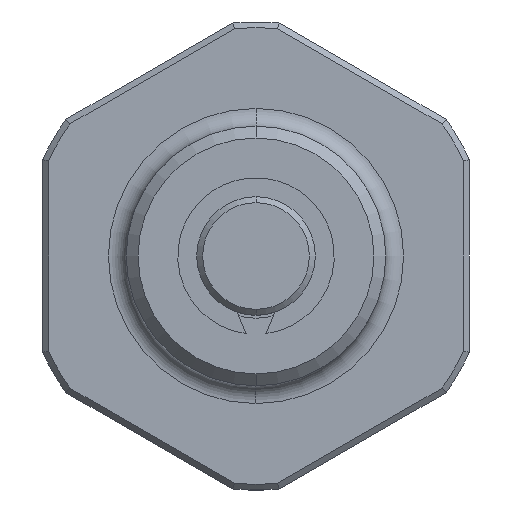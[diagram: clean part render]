
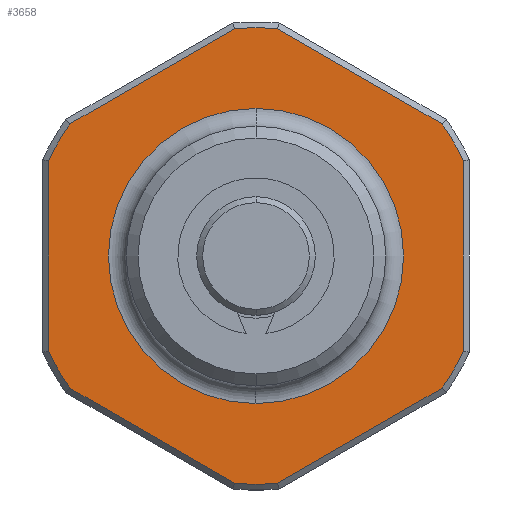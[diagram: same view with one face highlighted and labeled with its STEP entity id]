
A CAD part, front view. The second image highlights one B-rep face of the part: STEP entity #3658.
In plain terms, the highlighted planar face has unit normal (0, -1, 0).
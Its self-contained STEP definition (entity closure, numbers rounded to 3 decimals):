
#689=CARTESIAN_POINT('',(0.,-39.,0.));
#690=DIRECTION('',(0.,1.,0.));
#691=DIRECTION('',(-0.909,0.,0.417));
#692=AXIS2_PLACEMENT_3D('',#689,#690,#691);
#694=DIRECTION('',(-0.866,0.,-0.5));
#695=VECTOR('',#694,16.039);
#696=CARTESIAN_POINT('',(-1.805,-39.,19.165));
#697=LINE('',#696,#695);
#698=CARTESIAN_POINT('',(0.,-39.,0.));
#699=DIRECTION('',(0.,1.,0.));
#700=DIRECTION('',(-0.094,0.,0.996));
#701=AXIS2_PLACEMENT_3D('',#698,#699,#700);
#703=DIRECTION('',(-0.866,0.,0.5));
#704=VECTOR('',#703,16.039);
#705=CARTESIAN_POINT('',(15.695,-39.,11.146));
#706=LINE('',#705,#704);
#707=CARTESIAN_POINT('',(0.,-39.,0.));
#708=DIRECTION('',(0.,1.,0.));
#709=DIRECTION('',(0.815,0.,0.579));
#710=AXIS2_PLACEMENT_3D('',#707,#708,#709);
#712=DIRECTION('',(0.,0.,1.));
#713=VECTOR('',#712,16.039);
#714=CARTESIAN_POINT('',(17.5,-39.,-8.02));
#715=LINE('',#714,#713);
#716=CARTESIAN_POINT('',(0.,-39.,0.));
#717=DIRECTION('',(0.,1.,0.));
#718=DIRECTION('',(0.909,0.,-0.417));
#719=AXIS2_PLACEMENT_3D('',#716,#717,#718);
#721=DIRECTION('',(0.866,0.,0.5));
#722=VECTOR('',#721,16.039);
#723=CARTESIAN_POINT('',(1.805,-39.,-19.165));
#724=LINE('',#723,#722);
#725=CARTESIAN_POINT('',(0.,-39.,0.));
#726=DIRECTION('',(0.,1.,0.));
#727=DIRECTION('',(0.094,0.,-0.996));
#728=AXIS2_PLACEMENT_3D('',#725,#726,#727);
#730=DIRECTION('',(0.866,0.,-0.5));
#731=VECTOR('',#730,16.039);
#732=CARTESIAN_POINT('',(-15.695,-39.,-11.146));
#733=LINE('',#732,#731);
#734=CARTESIAN_POINT('',(0.,-39.,0.));
#735=DIRECTION('',(0.,1.,0.));
#736=DIRECTION('',(-0.815,0.,-0.579));
#737=AXIS2_PLACEMENT_3D('',#734,#735,#736);
#739=DIRECTION('',(0.,0.,-1.));
#740=VECTOR('',#739,16.039);
#741=CARTESIAN_POINT('',(-17.5,-39.,8.02));
#742=LINE('',#741,#740);
#743=CARTESIAN_POINT('',(0.,-39.,0.));
#744=DIRECTION('',(0.,-1.,0.));
#745=DIRECTION('',(0.,0.,-1.));
#746=AXIS2_PLACEMENT_3D('',#743,#744,#745);
#748=CARTESIAN_POINT('',(0.,-39.,0.));
#749=DIRECTION('',(0.,-1.,0.));
#750=DIRECTION('',(0.,0.,1.));
#751=AXIS2_PLACEMENT_3D('',#748,#749,#750);
#2346=CARTESIAN_POINT('',(0.,-39.,-12.45));
#2347=CARTESIAN_POINT('',(0.,-39.,12.45));
#2348=VERTEX_POINT('',#2346);
#2349=VERTEX_POINT('',#2347);
#2386=CARTESIAN_POINT('',(-17.5,-39.,8.02));
#2387=CARTESIAN_POINT('',(-15.695,-39.,11.146));
#2388=VERTEX_POINT('',#2386);
#2389=VERTEX_POINT('',#2387);
#2394=CARTESIAN_POINT('',(-17.5,-39.,-8.02));
#2395=VERTEX_POINT('',#2394);
#2398=CARTESIAN_POINT('',(-15.695,-39.,-11.146));
#2399=VERTEX_POINT('',#2398);
#2402=CARTESIAN_POINT('',(-1.805,-39.,-19.165));
#2403=VERTEX_POINT('',#2402);
#2406=CARTESIAN_POINT('',(1.805,-39.,-19.165));
#2407=VERTEX_POINT('',#2406);
#2410=CARTESIAN_POINT('',(15.695,-39.,-11.146));
#2411=VERTEX_POINT('',#2410);
#2414=CARTESIAN_POINT('',(17.5,-39.,-8.02));
#2415=VERTEX_POINT('',#2414);
#2418=CARTESIAN_POINT('',(17.5,-39.,8.02));
#2419=VERTEX_POINT('',#2418);
#2422=CARTESIAN_POINT('',(15.695,-39.,11.146));
#2423=VERTEX_POINT('',#2422);
#2426=CARTESIAN_POINT('',(1.805,-39.,19.165));
#2427=VERTEX_POINT('',#2426);
#2430=CARTESIAN_POINT('',(-1.805,-39.,19.165));
#2431=VERTEX_POINT('',#2430);
#3622=CARTESIAN_POINT('',(0.,-39.,0.));
#3623=DIRECTION('',(0.,1.,0.));
#3624=DIRECTION('',(0.,0.,-1.));
#3625=AXIS2_PLACEMENT_3D('',#3622,#3623,#3624);
#3626=PLANE('',#3625);
#3628=ORIENTED_EDGE('',*,*,#3627,.T.);
#3630=ORIENTED_EDGE('',*,*,#3629,.F.);
#3632=ORIENTED_EDGE('',*,*,#3631,.T.);
#3634=ORIENTED_EDGE('',*,*,#3633,.F.);
#3636=ORIENTED_EDGE('',*,*,#3635,.T.);
#3638=ORIENTED_EDGE('',*,*,#3637,.F.);
#3639=ORIENTED_EDGE('',*,*,#3612,.T.);
#3641=ORIENTED_EDGE('',*,*,#3640,.F.);
#3643=ORIENTED_EDGE('',*,*,#3642,.T.);
#3645=ORIENTED_EDGE('',*,*,#3644,.F.);
#3647=ORIENTED_EDGE('',*,*,#3646,.T.);
#3649=ORIENTED_EDGE('',*,*,#3648,.F.);
#3650=EDGE_LOOP('',(#3628,#3630,#3632,#3634,#3636,#3638,#3639,#3641,#3643,#3645,
#3647,#3649));
#3651=FACE_OUTER_BOUND('',#3650,.F.);
#3653=ORIENTED_EDGE('',*,*,#3652,.T.);
#3655=ORIENTED_EDGE('',*,*,#3654,.T.);
#3656=EDGE_LOOP('',(#3653,#3655));
#3657=FACE_BOUND('',#3656,.F.);
#693=CIRCLE('',#692,19.25);
#702=CIRCLE('',#701,19.25);
#711=CIRCLE('',#710,19.25);
#720=CIRCLE('',#719,19.25);
#729=CIRCLE('',#728,19.25);
#738=CIRCLE('',#737,19.25);
#747=CIRCLE('',#746,12.45);
#752=CIRCLE('',#751,12.45);
#3612=EDGE_CURVE('',#2415,#2411,#720,.T.);
#3627=EDGE_CURVE('',#2388,#2389,#693,.T.);
#3629=EDGE_CURVE('',#2431,#2389,#697,.T.);
#3631=EDGE_CURVE('',#2431,#2427,#702,.T.);
#3633=EDGE_CURVE('',#2423,#2427,#706,.T.);
#3635=EDGE_CURVE('',#2423,#2419,#711,.T.);
#3637=EDGE_CURVE('',#2415,#2419,#715,.T.);
#3640=EDGE_CURVE('',#2407,#2411,#724,.T.);
#3642=EDGE_CURVE('',#2407,#2403,#729,.T.);
#3644=EDGE_CURVE('',#2399,#2403,#733,.T.);
#3646=EDGE_CURVE('',#2399,#2395,#738,.T.);
#3648=EDGE_CURVE('',#2388,#2395,#742,.T.);
#3652=EDGE_CURVE('',#2348,#2349,#747,.T.);
#3654=EDGE_CURVE('',#2349,#2348,#752,.T.);
#3658=ADVANCED_FACE('',(#3651,#3657),#3626,.F.);
